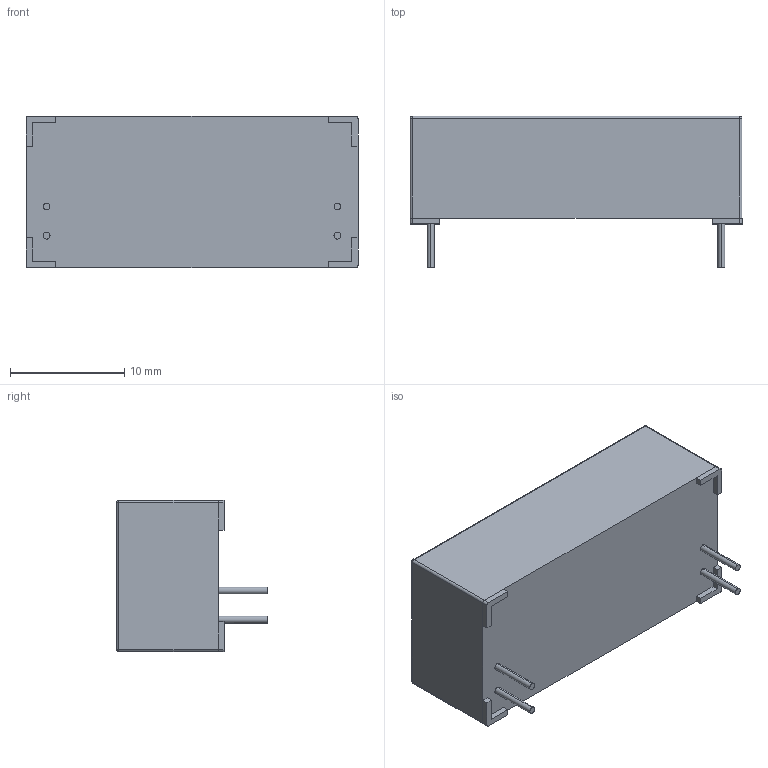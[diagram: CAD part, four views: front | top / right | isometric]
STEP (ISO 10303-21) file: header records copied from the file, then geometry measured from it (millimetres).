
FILE_DESCRIPTION (( 'STEP AP203' ), '1' );
FILE_NAME ('88-1-B.STEP', '2010-06-29T13:35:51', ( ' ' ), ( '' ), 'SwSTEP 2.0', 'SolidWorks 2009', '' );
FILE_SCHEMA (( 'CONFIG_CONTROL_DESIGN' ));
Length unit declared in the file: millimetre
Products named in the file (1): 88-1-B
Bounding box: 29 x 13.2 x 13.2 mm (x, y, z)
Volume: 3410.7 mm3; surface area: 1558.6 mm2
Topology: 1 solids, 1 shells, 727 faces, 1920 edges, 1268 vertices
Faces by surface type: plane 440, bspline 263, cylinder 20, sphere 4
Entity records: 36201 total; most frequent: CARTESIAN_POINT 19911, ORIENTED_EDGE 3832, DIRECTION 2360, EDGE_CURVE 1916, VECTOR 1350, LINE 1350, VERTEX_POINT 1268, EDGE_LOOP 804
